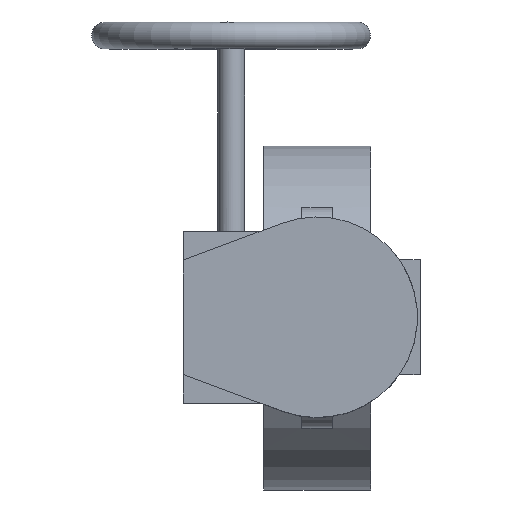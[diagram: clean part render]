
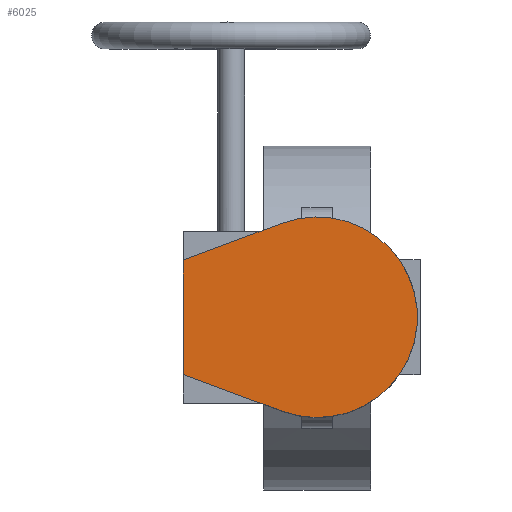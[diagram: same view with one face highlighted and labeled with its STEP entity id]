
A CAD part, top view. The second image highlights one B-rep face of the part: STEP entity #6025.
In plain terms, the highlighted planar face has unit normal (0, 0, 1).
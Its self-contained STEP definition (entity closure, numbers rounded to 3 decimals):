
#6025=ADVANCED_FACE('',(#10949),#10951,.T.);
#10949=FACE_BOUND('',#10950,.T.);
#10950=EDGE_LOOP('',(#14895,#14896,#14897,#14898));
#10951=PLANE('',#10952);
#10952=AXIS2_PLACEMENT_3D('',#10953,#10954,#10955);
#10953=CARTESIAN_POINT('',(0.,0.,255.));
#10954=DIRECTION('',(0.,0.,1.));
#10955=DIRECTION('',(0.,1.,0.));
#14895=ORIENTED_EDGE('',*,*,#16893,.T.);
#14896=ORIENTED_EDGE('',*,*,#16889,.T.);
#14897=ORIENTED_EDGE('',*,*,#16882,.T.);
#14898=ORIENTED_EDGE('',*,*,#16877,.T.);
#16877=EDGE_CURVE('',#20092,#20090,#20093,.T.);
#16882=EDGE_CURVE('',#20100,#20092,#20101,.T.);
#16889=EDGE_CURVE('',#20113,#20100,#20114,.T.);
#16893=EDGE_CURVE('',#20090,#20113,#20119,.T.);
#20090=VERTEX_POINT('',#28531);
#20092=VERTEX_POINT('',#28535);
#20093=LINE('',#28536,#28537);
#20100=VERTEX_POINT('',#28553);
#20101=LINE('',#28554,#28555);
#20113=VERTEX_POINT('',#28580);
#20114=LINE('',#28581,#28582);
#20119=CIRCLE('',#28594,52.5);
#28531=CARTESIAN_POINT('',(-18.284,-49.213,255.));
#28535=CARTESIAN_POINT('',(-70.,-30.,255.));
#28536=CARTESIAN_POINT('',(-70.,-30.,255.));
#28537=VECTOR('',#28538,1.);
#28538=DIRECTION('',(0.937,-0.348,0.));
#28553=CARTESIAN_POINT('',(-70.,30.,255.));
#28554=CARTESIAN_POINT('',(-70.,30.,255.));
#28555=VECTOR('',#28556,1.);
#28556=DIRECTION('',(0.,-1.,0.));
#28580=CARTESIAN_POINT('',(-18.284,49.213,255.));
#28581=CARTESIAN_POINT('',(-18.284,49.213,255.));
#28582=VECTOR('',#28583,1.);
#28583=DIRECTION('',(-0.937,-0.348,0.));
#28594=AXIS2_PLACEMENT_3D('',#28595,#28596,#28597);
#28595=CARTESIAN_POINT('',(0.,0.,255.));
#28596=DIRECTION('',(0.,0.,1.));
#28597=DIRECTION('',(-0.348,-0.937,0.));
